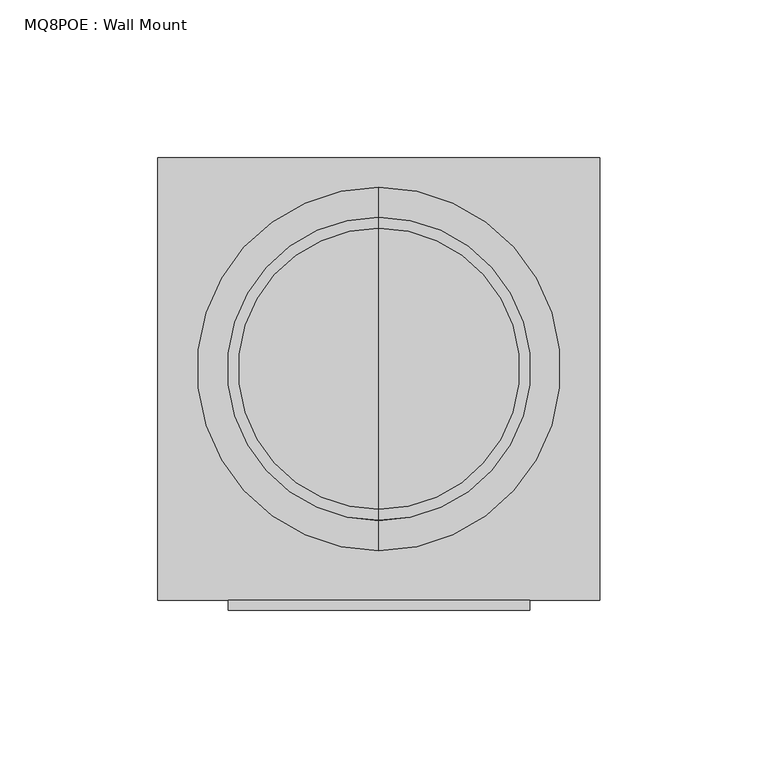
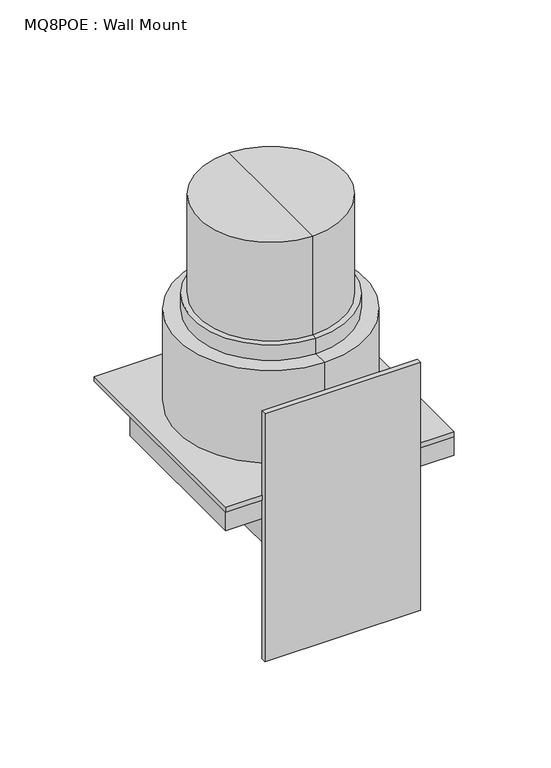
"""IFC4 building model written with IfcOpenShell, lengths in millimetres: proxy geometry, MQ8POE : Wall Mount."""

from ifc_helpers import new_model, si_unit, frame, origin, place, context, project, spatial, polyline, circle_curve, outline, extrude, source, transform, mapped, element, save
from ifc_brep_helpers import plane_surface, cylinder_surface, advanced_brep


def mq8poe_wall_mount_d2499bfe(model_context):
    return source(origin(), model_context, "Body", "SolidModel", [
        advanced_brep(
        [(9e-07, 28.6749913, 3133.1060074), (9e-07, 117.6749913, 3133.1060074), (9e-07, 117.6749913, 3197.1575699), (9e-07, 28.6749913, 3197.1575699), (9e-07, 25.1749913, 3133.1060074), (9e-07, 121.1749913, 3133.1060074), (9e-07, 25.1749913, 3123.0849137), (9e-07, 121.1749913, 3123.0849137), (9e-07, 15.6749913, 3123.0849137), (9e-07, 130.6749913, 3123.0849137), (9e-07, 15.6749913, 3063.0575699), (9e-07, 130.6749913, 3063.0575699), (9e-07, 73.1749913, 3063.0575699), (9e-07, 73.1749913, 3197.1575699)],
        [
            (0, 1, circle_curve(frame((9e-07, 73.1749913, 3133.1060074), z_axis=(0.0, 0.0, 1.0), x_axis=(1.898263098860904e-10, 1.0, 0.0)), 44.5)),
            (1, 2),
            (2, 3, circle_curve(frame((9e-07, 73.1749913, 3197.1575699), z_axis=(0.0, 0.0, -1.0), x_axis=(1.898263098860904e-10, 1.0, 0.0)), 44.5)),
            (3, 0),
            (1, 0, circle_curve(frame((9e-07, 73.1749913, 3133.1060074), z_axis=(0.0, 0.0, 1.0), x_axis=(1.898263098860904e-10, 1.0, 0.0)), 44.5)),
            (3, 2, circle_curve(frame((9e-07, 73.1749913, 3197.1575699), z_axis=(0.0, 0.0, -1.0), x_axis=(1.898263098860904e-10, 1.0, 0.0)), 44.5)),
            (4, 5, circle_curve(frame((9e-07, 73.1749913, 3133.1060074), z_axis=(0.0, 0.0, 1.0), x_axis=(1.898263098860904e-10, 1.0, 0.0)), 48.0)),
            (5, 1),
            (0, 4),
            (5, 4, circle_curve(frame((9e-07, 73.1749913, 3133.1060074), z_axis=(0.0, 0.0, 1.0), x_axis=(1.898263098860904e-10, 1.0, 0.0)), 48.0)),
            (6, 7, circle_curve(frame((9e-07, 73.1749913, 3123.0849137), z_axis=(0.0, 0.0, 1.0), x_axis=(1.898263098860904e-10, 1.0, 0.0)), 48.0)),
            (7, 5),
            (4, 6),
            (7, 6, circle_curve(frame((9e-07, 73.1749913, 3123.0849137), z_axis=(0.0, 0.0, 1.0), x_axis=(1.898263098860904e-10, 1.0, 0.0)), 48.0)),
            (8, 9, circle_curve(frame((9e-07, 73.1749913, 3123.0849137), z_axis=(0.0, 0.0, 1.0), x_axis=(1.898263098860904e-10, 1.0, 0.0)), 57.5)),
            (9, 7),
            (6, 8),
            (9, 8, circle_curve(frame((9e-07, 73.1749913, 3123.0849137), z_axis=(0.0, 0.0, 1.0), x_axis=(1.898263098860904e-10, 1.0, 0.0)), 57.5)),
            (10, 11, circle_curve(frame((9e-07, 73.1749913, 3063.0575699), z_axis=(0.0, 0.0, 1.0), x_axis=(1.898263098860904e-10, 1.0, 0.0)), 57.5)),
            (11, 9),
            (8, 10),
            (11, 10, circle_curve(frame((9e-07, 73.1749913, 3063.0575699), z_axis=(0.0, 0.0, 1.0), x_axis=(1.898263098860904e-10, 1.0, 0.0)), 57.5)),
            (12, 11),
            (10, 12),
            (2, 13),
            (13, 3),
        ],
        [
            cylinder_surface(frame((9e-07, 73.1749913, 3465.0375272), z_axis=(0.0, 0.0, -1.0), x_axis=(1.898263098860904e-10, 1.0, 0.0)), 44.5),
            plane_surface(frame((9e-07, 73.1749913, 3133.1060074), z_axis=(0.0, 0.0, 1.0), x_axis=(1.898263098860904e-10, 1.0, 0.0))),
            cylinder_surface(frame((9e-07, 73.1749913, 3465.0375272), z_axis=(0.0, 0.0, -1.0), x_axis=(1.898263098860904e-10, 1.0, 0.0)), 48.0),
            plane_surface(frame((9e-07, 73.1749913, 3123.0849137), z_axis=(0.0, 0.0, 1.0), x_axis=(1.898263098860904e-10, 1.0, 0.0))),
            cylinder_surface(frame((9e-07, 73.1749913, 3465.0375272), z_axis=(0.0, 0.0, -1.0), x_axis=(1.898263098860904e-10, 1.0, 0.0)), 57.5),
            plane_surface(frame((9e-07, 73.1749913, 3063.0575699), z_axis=(0.0, 0.0, -1.0), x_axis=(1.898263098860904e-10, 1.0, 0.0))),
            plane_surface(frame((9e-07, 73.1749913, 3197.1575699), z_axis=(0.0, 0.0, 1.0), x_axis=(1.898263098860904e-10, 1.0, 0.0))),
        ],
        [
            (0, [[1, 2, 3, 4]]),
            (0, [[5, -4, 6, -2]]),
            (1, [[7, 8, -1, 9]]),
            (1, [[10, -9, -5, -8]]),
            (2, [[11, 12, -7, 13]]),
            (2, [[14, -13, -10, -12]]),
            (3, [[15, 16, -11, 17]]),
            (3, [[18, -17, -14, -16]]),
            (4, [[19, 20, -15, 21]]),
            (4, [[22, -21, -18, -20]]),
            (5, [[23, -19, 24]]),
            (5, [[-24, -22, -23]]),
            (6, [[-3, 25, 26]]),
            (6, [[-6, -26, -25]]),
        ],
    ),
        extrude(outline(polyline([(70.0000009, 139.9999913), (70.0000009, -8.7e-06), (-69.9999991, -8.7e-06), (-69.9999991, 139.9999913), (70.0000009, 139.9999913)])), frame((0.0, 0.0, 3059.8825699), z_axis=(0.0, 0.0, 1.0), x_axis=(1.0, 0.0, 0.0)), (0.0, 0.0, 1.0), 3.175),
        extrude(outline(polyline([(47.7242196, -8.7e-06), (47.7242196, -3.1750087), (-47.7242179, -3.1750087), (-47.7242179, -8.7e-06), (47.7242196, -8.7e-06)])), frame((0.0, 0.0, 2957.0740874), z_axis=(0.0, 0.0, 1.0), x_axis=(1.0, 0.0, 0.0)), (0.0, 0.0, 1.0), 161.0),
        extrude(outline(polyline([(-140.0, 0.0), (0.0, 0.0), (0.0, -15.0575699), (-47.8379638, -15.0575699), (-47.8379638, -65.8575699), (-92.1620361, -65.8575699), (-92.1620361, -15.0575699), (-140.0, -15.0575699), (-140.0, 0.0)])), frame((-69.9999991, -8.7e-06, 3063.0575699), z_axis=(1.898264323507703e-10, 1.0, 0.0), x_axis=(-1.0, 1.898264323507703e-10, 0.0)), (0.0, 0.0, 1.0), 101.6),
    ])


if __name__ == "__main__":
    model = new_model("IFC4")
    model_context = context("Model", 3, world=origin())
    ifc_project = project(units=[si_unit("LENGTHUNIT", "METRE", prefix="MILLI")], contexts=[model_context])
    site = spatial("IfcSite", under=ifc_project)
    building = spatial("IfcBuilding", under=site)
    placement = place(None, origin())
    mq8poe_wall_mount_shape = mq8poe_wall_mount_d2499bfe(model_context)
    element("IfcBuildingElementProxy", 1, Name="MQ8POE : Wall Mount", ObjectType="MQ8POE : Wall Mount", at=placement, inside=building, context=model_context, shape_type="MappedRepresentation", body=[
        mapped(mq8poe_wall_mount_shape, transform((0.0, 0.0, 0.0), x_axis=(1.0, 0.0, 0.0), y_axis=(0.0, 1.0, 0.0), z_axis=(0.0, 0.0, 1.0))),
    ])
    save(model, "model.ifc")
